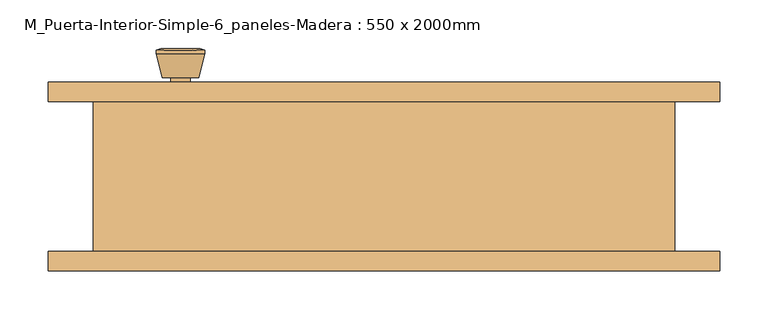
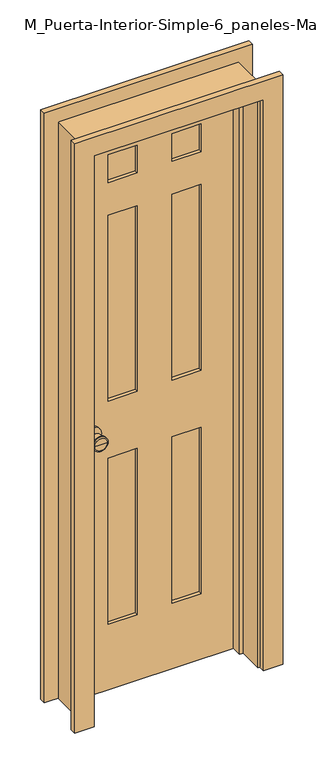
"""IFC4 building model written with IfcOpenShell, lengths in millimetres: door geometry, M_Puerta-Interior-Simple-6_paneles-Madera : 550 x 2000mm."""

import ifcopenshell
import ifcopenshell.guid

model = None  # the IFC model being written
_history = None  # IfcOwnerHistory: only IFC2X3 demands one
_inside = {}  # id of a spatial element -> (the spatial element, [elements in it])
_under = {}  # id of a project, library or spatial element -> (it, [spatial elements below it])
_declared = {}  # id of a project -> (the project, [libraries it declares])
_typed = {}  # id of a type object -> (the type object, [elements of that type])
_made_of = {}  # id of a material, layer set ... -> (it, [elements and type objects made of it])


def new_model(schema):
    """Start an empty IFC model of exactly this schema.

    Asked for "IFC4X3", IfcOpenShell would pick the latest addendum, in which some entities
    have other attributes; the version numbers below select the first issue.
    IFC2X3 requires an IfcOwnerHistory on every rooted entity: one is made here for all.
    """
    global model, _history
    if schema == "IFC4X3":
        model = ifcopenshell.file(schema_version=(4, 3, 0, 0))
    else:
        model = ifcopenshell.file(schema=schema)
    _inside.clear()
    _under.clear()
    _declared.clear()
    _typed.clear()
    _made_of.clear()
    _history = None
    if model.schema == "IFC2X3":
        org = make("IfcOrganization", Name="unknown")
        user = make(
            "IfcPersonAndOrganization",
            ThePerson=make("IfcPerson", FamilyName="unknown"),
            TheOrganization=org,
        )
        app = make(
            "IfcApplication",
            ApplicationDeveloper=org,
            Version="unknown",
            ApplicationFullName="unknown",
            ApplicationIdentifier="unknown",
        )
        _history = make(
            "IfcOwnerHistory",
            OwningUser=user,
            OwningApplication=app,
            ChangeAction="ADDED",
            CreationDate=0,
        )
    return model


def make(cls, **values):
    """One entity of the class cls with the attributes given. An attribute that is None is left unset."""
    return model.create_entity(
        cls, **{name: value for name, value in values.items() if value is not None}
    )


def rooted(cls, **values):
    """An entity with a GlobalId (a new one), such as an element, a storey or a relation."""
    return make(cls, GlobalId=ifcopenshell.guid.new(), OwnerHistory=_history, **values)


def si_unit(unit_type, name, prefix=None):
    """IfcSIUnit, for example si_unit("LENGTHUNIT", "METRE", prefix="MILLI")."""
    return make("IfcSIUnit", UnitType=unit_type, Prefix=prefix, Name=name)


def assignment(units):
    """IfcUnitAssignment: the units of a project."""
    return None if units is None else make("IfcUnitAssignment", Units=units)


def point(xyz):
    """IfcCartesianPoint."""
    return None if xyz is None else make("IfcCartesianPoint", Coordinates=xyz)


def direction(xyz):
    """IfcDirection."""
    return None if xyz is None else make("IfcDirection", DirectionRatios=xyz)


def frame(location, z_axis=None, x_axis=None):
    """IfcAxis2Placement3D, a coordinate frame: its origin and axes. An axis left out is left unset."""
    return make(
        "IfcAxis2Placement3D",
        Location=point(location),
        Axis=direction(z_axis),
        RefDirection=direction(x_axis),
    )


def frame_2d(location, x_axis=None):
    """IfcAxis2Placement2D, a coordinate frame in the plane: its origin and x axis."""
    return make(
        "IfcAxis2Placement2D", Location=point(location), RefDirection=direction(x_axis)
    )


def origin():
    """The frame at (0, 0, 0) with its axes left unset."""
    return frame((0.0, 0.0, 0.0))


def place(relative_to, where):
    """IfcLocalPlacement: puts the frame where relative to a parent placement (None: the world)."""
    return make(
        "IfcLocalPlacement", PlacementRelTo=relative_to, RelativePlacement=where
    )


def context(
    kind, dimensions, precision=None, world=None, true_north=None, identifier=None
):
    """IfcGeometricRepresentationContext, for example the 3D "Model" context."""
    return make(
        "IfcGeometricRepresentationContext",
        ContextIdentifier=identifier,
        ContextType=kind,
        CoordinateSpaceDimension=dimensions,
        Precision=precision,
        WorldCoordinateSystem=world,
        TrueNorth=true_north,
    )


def project(units=None, contexts=None):
    """IfcProject with its units and contexts."""
    return rooted(
        "IfcProject",
        Name="project",
        RepresentationContexts=contexts,
        UnitsInContext=assignment(units),
    )


def spatial(cls, under=None, at=None, **own):
    """A site, building, storey or space (cls), placed at a placement, below another one or the project."""
    s = rooted(cls, ObjectPlacement=at, **own)
    if under is not None:
        _under.setdefault(under.id(), (under, []))[1].append(s)
    return s


def polyline(points):
    """IfcPolyline through the points."""
    return make("IfcPolyline", Points=[point(p) for p in points])


def circle_curve(where, radius):
    """IfcCircle in the frame where."""
    return make("IfcCircle", Position=where, Radius=radius)


def trimmed(basis, trim1, trim2, sense, master):
    """IfcTrimmedCurve: the piece of a basis curve between two trims."""
    return make(
        "IfcTrimmedCurve",
        BasisCurve=basis,
        Trim1=trim1,
        Trim2=trim2,
        SenseAgreement=sense,
        MasterRepresentation=master,
    )


def segment(curve, same_sense, transition):
    """IfcCompositeCurveSegment."""
    return make(
        "IfcCompositeCurveSegment",
        Transition=transition,
        SameSense=same_sense,
        ParentCurve=curve,
    )


def composite_curve(segments, self_intersect=None):
    """IfcCompositeCurve: segments joined end to end."""
    return make("IfcCompositeCurve", Segments=segments, SelfIntersect=self_intersect)


def outline(outer, holes=None, kind="AREA"):
    """IfcArbitraryClosedProfileDef: a profile drawn as a closed curve; with holes, ...WithVoids."""
    if holes is None:
        return make("IfcArbitraryClosedProfileDef", ProfileType=kind, OuterCurve=outer)
    return make(
        "IfcArbitraryProfileDefWithVoids",
        ProfileType=kind,
        OuterCurve=outer,
        InnerCurves=holes,
    )


def extrude(swept, where, along, depth):
    """IfcExtrudedAreaSolid: the profile swept, set in the frame where, extruded along a direction by depth."""
    return make(
        "IfcExtrudedAreaSolid",
        SweptArea=swept,
        Position=where,
        ExtrudedDirection=direction(along),
        Depth=depth,
    )


def faces_of(points, faces, orient=None, outer=None):
    """IfcFace entities. A face is a list of loops; a loop is a list of indices into points, from 0.

    orient and outer hold one flag for each loop. By default every Orientation is true, the
    first loop of a face is its IfcFaceOuterBound and the others are IfcFaceBound.
    """
    made = []
    for i, loops in enumerate(faces):
        bounds = []
        for j, loop in enumerate(loops):
            is_outer = j == 0 if outer is None else outer[i][j]
            bounds.append(
                make(
                    "IfcFaceOuterBound" if is_outer else "IfcFaceBound",
                    Bound=make("IfcPolyLoop", Polygon=[points[k] for k in loop]),
                    Orientation=True if orient is None else orient[i][j],
                )
            )
        made.append(make("IfcFace", Bounds=bounds))
    return made


def faceted_brep(points, faces, orient=None, outer=None, voids=None):
    """IfcFacetedBrep: a solid bounded by flat faces; with voids (closed shells), ...WithVoids."""
    shared = [point(p) for p in points]
    hull = make("IfcClosedShell", CfsFaces=faces_of(shared, faces, orient, outer))
    if voids is None:
        return make("IfcFacetedBrep", Outer=hull)
    return make(
        "IfcFacetedBrepWithVoids",
        Outer=hull,
        Voids=[
            make(cls, CfsFaces=faces_of(shared, fs, o, b)) for cls, fs, o, b in voids
        ],
    )


def shape(context_of_items, identifier, shape_type, items):
    """IfcShapeRepresentation: the items that make up one representation, for example the "Body"."""
    return make(
        "IfcShapeRepresentation",
        ContextOfItems=context_of_items,
        RepresentationIdentifier=identifier,
        RepresentationType=shape_type,
        Items=items,
    )


def source(mapping_origin, context_of_items, identifier, shape_type, items):
    """IfcRepresentationMap: a shape defined once, which mapped items show again and again."""
    return make(
        "IfcRepresentationMap",
        MappingOrigin=mapping_origin,
        MappedRepresentation=shape(context_of_items, identifier, shape_type, items),
    )


def transform(
    local_origin,
    x_axis=None,
    y_axis=None,
    z_axis=None,
    scale=None,
    scale2=None,
    scale3=None,
    uniform=True,
):
    """IfcCartesianTransformationOperator3D, or its non-uniform kind. x_axis, y_axis, z_axis: its Axis1, 2, 3."""
    if uniform:
        return make(
            "IfcCartesianTransformationOperator3D",
            Axis1=direction(x_axis),
            Axis2=direction(y_axis),
            LocalOrigin=point(local_origin),
            Scale=scale,
            Axis3=direction(z_axis),
        )
    return make(
        "IfcCartesianTransformationOperator3DnonUniform",
        Axis1=direction(x_axis),
        Axis2=direction(y_axis),
        LocalOrigin=point(local_origin),
        Scale=scale,
        Axis3=direction(z_axis),
        Scale2=scale2,
        Scale3=scale3,
    )


def mapped(mapping_source, mapping_target):
    """IfcMappedItem: shows the shape of a source again, moved by a transform."""
    return make(
        "IfcMappedItem", MappingSource=mapping_source, MappingTarget=mapping_target
    )


def made_of(thing, what):
    """Note that an element or type object is made of a material, layer set ...; save() writes the relation."""
    if what is not None:
        _made_of.setdefault(what.id(), (what, []))[1].append(thing)
    return thing


def element(
    cls,
    number,
    at=None,
    inside=None,
    cuts=None,
    type_object=None,
    material=None,
    context=None,
    identifier="Body",
    shape_type=None,
    held_by="IfcProductDefinitionShape",
    body=None,
    shapes=None,
    **own,
):
    """One element of the class cls, such as IfcWall. Its Tag is "e" and its number.

    at: its placement. inside: the storey or other place that contains it. cuts: it is an
    opening in that element (IfcRelVoidsElement). A single representation is given by context,
    identifier, shape_type and body (its items); several are given by shapes. held_by: the class
    of the entity that holds the representations. save() writes the other relations.
    """
    e = rooted(cls, Tag="e%d" % number, ObjectPlacement=at, **own)
    if body is not None:
        shapes = [shape(context, identifier, shape_type, body)]
    if shapes is not None:
        e.Representation = make(held_by, Representations=shapes)
    if inside is not None:
        _inside.setdefault(inside.id(), (inside, []))[1].append(e)
    if cuts is not None:
        rooted(
            "IfcRelVoidsElement", RelatingBuildingElement=cuts, RelatedOpeningElement=e
        )
    if type_object is not None:
        _typed.setdefault(type_object.id(), (type_object, []))[1].append(e)
    return made_of(e, material)


def aggregate(whole, parts):
    """IfcRelAggregates: a whole, such as a stair, and the parts it consists of."""
    return rooted("IfcRelAggregates", RelatingObject=whole, RelatedObjects=parts)


def save(model, path):
    """Write the relations noted so far, then the file.

    IfcRelAggregates (storeys below a building ...), IfcRelContainedInSpatialStructure (elements
    in a storey), IfcRelDefinesByType, IfcRelAssociatesMaterial and IfcRelDeclares: one each for
    every whole, place, type object, material and project.
    """
    for whole, parts in _under.values():
        aggregate(whole, parts)
    for where, things in _inside.values():
        rooted(
            "IfcRelContainedInSpatialStructure",
            RelatedElements=things,
            RelatingStructure=where,
        )
    for kind, things in _typed.values():
        rooted("IfcRelDefinesByType", RelatedObjects=things, RelatingType=kind)
    for what, things in _made_of.values():
        rooted("IfcRelAssociatesMaterial", RelatedObjects=things, RelatingMaterial=what)
    for by, libraries in _declared.values():
        rooted("IfcRelDeclares", RelatingContext=by, RelatedDefinitions=libraries)
    model.write(path)


def plane_surface(at):
    """IfcPlane: the flat surface through the origin of the frame at, square to its z axis."""
    return make("IfcPlane", Position=at)


def cylinder_surface(at, radius):
    """IfcCylindricalSurface: all points at the distance radius from the z axis of the frame at."""
    return make("IfcCylindricalSurface", Position=at, Radius=radius)


def revolved_surface(curve, axis_point, axis_direction):
    """IfcSurfaceOfRevolution: the curve turned about the line through axis_point along axis_direction."""
    return make(
        "IfcSurfaceOfRevolution",
        SweptCurve=make("IfcArbitraryOpenProfileDef", ProfileType="CURVE", Curve=curve),
        AxisPosition=make("IfcAxis1Placement", Location=point(axis_point), Axis=direction(axis_direction)),
    )


def advanced_brep(points, edges, surfaces, faces):
    """IfcAdvancedBrep: a solid bounded by faces that lie on surfaces and meet in shared edges.

    An edge is (start, end): straight between two places in points (the first is 0);
    or (start, end, curve); or (start, end, curve, False) where it runs against its curve.
    A face is (place in surfaces, loops), or (place, loops, False) where it looks against
    its surface's normal. A loop lists edges by number (the first is 1), with a minus sign
    where the edge is run from its end to its start. The first loop is the outer one.
    """
    corners = [point(p) for p in points]
    vertices = [make("IfcVertexPoint", VertexGeometry=c) for c in corners]
    made = []
    for start, end, *more in edges:
        made.append(
            make(
                "IfcEdgeCurve",
                EdgeStart=vertices[start],
                EdgeEnd=vertices[end],
                EdgeGeometry=more[0] if more else make("IfcPolyline", Points=[corners[start], corners[end]]),
                SameSense=more[1] if len(more) > 1 else True,
            )
        )
    hull = []
    for where, loops, *sense in faces:
        bounds = []
        for j, loop in enumerate(loops):
            ring = [make("IfcOrientedEdge", EdgeElement=made[abs(k) - 1], Orientation=k > 0) for k in loop]
            bounds.append(
                make(
                    "IfcFaceOuterBound" if j == 0 else "IfcFaceBound",
                    Bound=make("IfcEdgeLoop", EdgeList=ring),
                    Orientation=True,
                )
            )
        hull.append(make("IfcAdvancedFace", Bounds=bounds, FaceSurface=surfaces[where], SameSense=sense[0] if sense else True))
    return make("IfcAdvancedBrep", Outer=make("IfcClosedShell", CfsFaces=hull))


def m_puerta_interior_simple_6_paneles_madera_550_x_2000mm_e46cda8c(model_context):
    return source(origin(), model_context, "Body", "SolidModel", [
        advanced_brep(
        [(-210.0, 33.325, 914.4), (-200.0, 33.325, 914.4), (-220.0, 33.325, 914.4), (-189.5241324, -15.675, 914.4), (-210.0, -15.675, 914.4), (-230.4758676, -15.675, 914.4), (-185.0, -13.8471319, 914.4), (-235.0, -13.8471319, 914.4), (-185.0, -10.3834537, 914.4), (-235.0, -10.3834537, 914.4), (-191.363764, 14.325, 914.4), (-228.636236, 14.325, 914.4), (-200.0, 14.325, 914.4), (-220.0, 14.325, 914.4)],
        [
            (0, 1),
            (1, 2, circle_curve(frame((-210.0, 33.325, 914.4), z_axis=(0.0, 1.0, 0.0), x_axis=(-1.0, 0.0, 0.0)), 10.0)),
            (2, 0),
            (2, 1, circle_curve(frame((-210.0, 33.325, 914.4), z_axis=(0.0, 1.0, 0.0), x_axis=(-1.0, 0.0, 0.0)), 10.0)),
            (3, 4),
            (4, 5),
            (5, 3, circle_curve(frame((-210.0, -15.675, 914.4), z_axis=(0.0, -1.0, 0.0), x_axis=(-1.0, 0.0, 0.0)), 20.4758676)),
            (3, 5, circle_curve(frame((-210.0, -15.675, 914.4), z_axis=(0.0, -1.0, 0.0), x_axis=(-1.0, 0.0, 0.0)), 20.4758676)),
            (6, 3),
            (5, 7),
            (7, 6, circle_curve(frame((-210.0, -13.8471319, 914.4), z_axis=(0.0, -1.0, 0.0), x_axis=(-1.0, 0.0, 0.0)), 25.0)),
            (6, 7, circle_curve(frame((-210.0, -13.8471319, 914.4), z_axis=(0.0, -1.0, 0.0), x_axis=(-1.0, 0.0, 0.0)), 25.0)),
            (8, 6),
            (7, 9),
            (9, 8, circle_curve(frame((-210.0, -10.3834537, 914.4), z_axis=(0.0, -1.0, 0.0), x_axis=(-1.0, 0.0, 0.0)), 25.0)),
            (8, 9, circle_curve(frame((-210.0, -10.3834537, 914.4), z_axis=(0.0, -1.0, 0.0), x_axis=(-1.0, 0.0, 0.0)), 25.0)),
            (10, 8),
            (9, 11),
            (11, 10, circle_curve(frame((-210.0, 14.325, 914.4), z_axis=(0.0, -1.0, 0.0), x_axis=(-1.0, 0.0, 0.0)), 18.636236)),
            (10, 11, circle_curve(frame((-210.0, 14.325, 914.4), z_axis=(0.0, -1.0, 0.0), x_axis=(-1.0, 0.0, 0.0)), 18.636236)),
            (12, 10),
            (11, 13),
            (13, 12, circle_curve(frame((-210.0, 14.325, 914.4), z_axis=(0.0, -1.0, 0.0), x_axis=(-1.0, 0.0, 0.0)), 10.0)),
            (12, 13, circle_curve(frame((-210.0, 14.325, 914.4), z_axis=(0.0, -1.0, 0.0), x_axis=(-1.0, 0.0, 0.0)), 10.0)),
            (1, 12),
            (13, 2),
        ],
        [
            plane_surface(frame((-210.0, 33.325, 914.4), z_axis=(0.0, 1.0, 0.0), x_axis=(-1.0, 0.0, 0.0))),
            plane_surface(frame((-210.0, -15.675, 914.4), z_axis=(0.0, -1.0, 0.0), x_axis=(-1.0, 0.0, 0.0))),
            revolved_surface(polyline([(-230.4758676, -15.675, 914.4), (-235.0, -13.8471319, 914.4)]), (-210.0, 33.325, 914.4), (0.0, 1.0, 0.0)),
            cylinder_surface(frame((-210.0, 33.325, 914.4), z_axis=(0.0, 1.0, 0.0), x_axis=(-1.0, 0.0, 0.0)), 25.0),
            revolved_surface(polyline([(-235.0, -10.3834537, 914.4), (-228.636236, 14.325, 914.4)]), (-210.0, 33.325, 914.4), (0.0, 1.0, 0.0)),
            plane_surface(frame((-210.0, 14.325, 914.4), z_axis=(0.0, 1.0, 0.0), x_axis=(-1.0, 0.0, 0.0))),
            cylinder_surface(frame((-210.0, 33.325, 914.4), z_axis=(0.0, 1.0, 0.0), x_axis=(-1.0, 0.0, 0.0)), 10.0),
        ],
        [
            (0, [[1, 2, 3]]),
            (0, [[-3, 4, -1]]),
            (1, [[5, 6, 7]]),
            (1, [[-6, -5, 8]]),
            (2, [[9, -7, 10, 11]]),
            (2, [[-10, -8, -9, 12]]),
            (3, [[13, -11, 14, 15]]),
            (3, [[-14, -12, -13, 16]]),
            (4, [[17, -15, 18, 19]]),
            (4, [[-18, -16, -17, 20]]),
            (5, [[21, -19, 22, 23]]),
            (5, [[-22, -20, -21, 24]]),
            (6, [[25, -23, 26, -2]]),
            (6, [[-26, -24, -25, -4]]),
        ],
    ),
        extrude(outline(composite_curve([segment(trimmed(circle_curve(frame_2d((914.4, -210.0)), 30.0), [point((914.4, -240.0))], [point((914.4, -180.0))], False, "CARTESIAN"), True, "CONTINUOUS"), segment(trimmed(circle_curve(frame_2d((914.4, -210.0)), 30.0), [point((914.4, -180.0))], [point((914.4, -240.0))], False, "CARTESIAN"), True, "CONTINUOUS")], self_intersect=False)), frame((0.0, 33.325, 0.0), z_axis=(0.0, 1.0, 0.0), x_axis=(0.0, 0.0, 1.0)), (0.0, 0.0, 1.0), 6.0),
        advanced_brep(
        [(-210.0, 80.325, 914.4), (-220.0, 80.325, 914.4), (-200.0, 80.325, 914.4), (-189.5241324, 129.325, 914.4), (-230.4758676, 129.325, 914.4), (-210.0, 129.325, 914.4), (-185.0, 127.4971319, 914.4), (-235.0, 127.4971319, 914.4), (-185.0, 124.0334537, 914.4), (-235.0, 124.0334537, 914.4), (-191.363764, 99.325, 914.4), (-228.636236, 99.325, 914.4), (-200.0, 99.325, 914.4), (-220.0, 99.325, 914.4)],
        [
            (0, 1),
            (1, 2, circle_curve(frame((-210.0, 80.325, 914.4), z_axis=(0.0, -1.0, 0.0), x_axis=(-1.0, 0.0, 0.0)), 10.0)),
            (2, 0),
            (2, 1, circle_curve(frame((-210.0, 80.325, 914.4), z_axis=(0.0, -1.0, 0.0), x_axis=(-1.0, 0.0, 0.0)), 10.0)),
            (3, 4, circle_curve(frame((-210.0, 129.325, 914.4), z_axis=(0.0, 1.0, 0.0), x_axis=(-1.0, 0.0, 0.0)), 20.4758676)),
            (4, 5),
            (5, 3),
            (4, 3, circle_curve(frame((-210.0, 129.325, 914.4), z_axis=(0.0, 1.0, 0.0), x_axis=(-1.0, 0.0, 0.0)), 20.4758676)),
            (6, 7, circle_curve(frame((-210.0, 127.4971319, 914.4), z_axis=(0.0, 1.0, 0.0), x_axis=(-1.0, 0.0, 0.0)), 25.0)),
            (7, 4),
            (3, 6),
            (7, 6, circle_curve(frame((-210.0, 127.4971319, 914.4), z_axis=(0.0, 1.0, 0.0), x_axis=(-1.0, 0.0, 0.0)), 25.0)),
            (8, 9, circle_curve(frame((-210.0, 124.0334537, 914.4), z_axis=(0.0, 1.0, 0.0), x_axis=(-1.0, 0.0, 0.0)), 25.0)),
            (9, 7),
            (6, 8),
            (9, 8, circle_curve(frame((-210.0, 124.0334537, 914.4), z_axis=(0.0, 1.0, 0.0), x_axis=(-1.0, 0.0, 0.0)), 25.0)),
            (10, 11, circle_curve(frame((-210.0, 99.325, 914.4), z_axis=(0.0, 1.0, 0.0), x_axis=(-1.0, 0.0, 0.0)), 18.636236)),
            (11, 9),
            (8, 10),
            (11, 10, circle_curve(frame((-210.0, 99.325, 914.4), z_axis=(0.0, 1.0, 0.0), x_axis=(-1.0, 0.0, 0.0)), 18.636236)),
            (12, 13, circle_curve(frame((-210.0, 99.325, 914.4), z_axis=(0.0, 1.0, 0.0), x_axis=(-1.0, 0.0, 0.0)), 10.0)),
            (13, 11),
            (10, 12),
            (13, 12, circle_curve(frame((-210.0, 99.325, 914.4), z_axis=(0.0, 1.0, 0.0), x_axis=(-1.0, 0.0, 0.0)), 10.0)),
            (1, 13),
            (12, 2),
        ],
        [
            plane_surface(frame((-210.0, 80.325, 914.4), z_axis=(0.0, -1.0, 0.0), x_axis=(-1.0, 0.0, 0.0))),
            plane_surface(frame((-210.0, 129.325, 914.4), z_axis=(0.0, 1.0, 0.0), x_axis=(-1.0, 0.0, 0.0))),
            revolved_surface(polyline([(-230.4758676, 129.325, 914.4), (-235.0, 127.4971319, 914.4)]), (-210.0, 80.325, 914.4), (0.0, -1.0, 0.0)),
            cylinder_surface(frame((-210.0, 80.325, 914.4), z_axis=(0.0, -1.0, 0.0), x_axis=(-1.0, 0.0, 0.0)), 25.0),
            revolved_surface(polyline([(-235.0, 124.0334537, 914.4), (-228.636236, 99.325, 914.4)]), (-210.0, 80.325, 914.4), (0.0, -1.0, 0.0)),
            plane_surface(frame((-210.0, 99.325, 914.4), z_axis=(0.0, -1.0, 0.0), x_axis=(-1.0, 0.0, 0.0))),
            cylinder_surface(frame((-210.0, 80.325, 914.4), z_axis=(0.0, -1.0, 0.0), x_axis=(-1.0, 0.0, 0.0)), 10.0),
        ],
        [
            (0, [[1, 2, 3]]),
            (0, [[-3, 4, -1]]),
            (1, [[5, 6, 7]]),
            (1, [[8, -7, -6]]),
            (2, [[9, 10, -5, 11]]),
            (2, [[12, -11, -8, -10]]),
            (3, [[13, 14, -9, 15]]),
            (3, [[16, -15, -12, -14]]),
            (4, [[17, 18, -13, 19]]),
            (4, [[20, -19, -16, -18]]),
            (5, [[21, 22, -17, 23]]),
            (5, [[24, -23, -20, -22]]),
            (6, [[-2, 25, -21, 26]]),
            (6, [[-4, -26, -24, -25]]),
        ],
    ),
        extrude(outline(composite_curve([segment(trimmed(circle_curve(frame_2d((914.4, -210.0)), 30.0), [point((914.4, -240.0))], [point((914.4, -180.0))], False, "CARTESIAN"), True, "CONTINUOUS"), segment(trimmed(circle_curve(frame_2d((914.4, -210.0)), 30.0), [point((914.4, -180.0))], [point((914.4, -240.0))], False, "CARTESIAN"), True, "CONTINUOUS")], self_intersect=False)), frame((0.0, 74.325, 0.0), z_axis=(0.0, 1.0, 0.0), x_axis=(0.0, 0.0, 1.0)), (0.0, 0.0, 1.0), 6.0),
        faceted_brep([(300.0, 74.325, 0.0), (300.0, -80.675, 0.0), (275.0, -80.675, 0.0), (275.0, 4.4, 0.0), (262.3, 4.4, 0.0), (262.3, 39.325, 0.0), (275.0, 39.325, 0.0), (275.0, 74.325, 0.0), (300.0, 74.325, 2025.0), (300.0, -80.675, 2025.0), (-300.0, -80.675, 2025.0), (-300.0, -80.675, 0.0), (-275.0, -80.675, 0.0), (-275.0, -80.675, 2000.0), (275.0, -80.675, 2000.0), (275.0, 4.4, 2000.0), (-275.0, 4.4, 2000.0), (-275.0, 4.4, 0.0), (-262.3, 4.4, 0.0), (-262.3, 4.4, 1987.3), (262.3, 4.4, 1987.3), (262.3, 39.325, 1987.3), (-262.3, 39.325, 1987.3), (-262.3, 39.325, 0.0), (-275.0, 39.325, 0.0), (-275.0, 39.325, 2000.0), (275.0, 39.325, 2000.0), (275.0, 74.325, 2000.0), (-275.0, 74.325, 2000.0), (-275.0, 74.325, 0.0), (-300.0, 74.325, 0.0), (-300.0, 74.325, 2025.0)], [[[0, 1, 2, 3, 4, 5, 6, 7]], [[1, 0, 8, 9]], [[2, 1, 9, 10, 11, 12, 13, 14]], [[3, 2, 14, 15]], [[4, 3, 15, 16, 17, 18, 19, 20]], [[5, 4, 20, 21]], [[6, 5, 21, 22, 23, 24, 25, 26]], [[7, 6, 26, 27]], [[0, 7, 27, 28, 29, 30, 31, 8]], [[9, 8, 31, 10]], [[15, 14, 13, 16]], [[21, 20, 19, 22]], [[27, 26, 25, 28]], [[30, 29, 24, 23, 18, 17, 12, 11]], [[10, 31, 30, 11]], [[16, 13, 12, 17]], [[22, 19, 18, 23]], [[28, 25, 24, 29]]]),
        extrude(outline(polyline([(2000.0, -275.0), (0.0, -275.0), (0.0, 275.0), (2000.0, 275.0), (2000.0, -275.0)]), holes=[polyline([(1880.0, 57.5), (1880.0, 155.0), (1782.5, 155.0), (1782.5, 57.5), (1880.0, 57.5)]), polyline([(1667.5, 155.0), (1014.4, 155.0), (1014.4, 57.5), (1667.5, 57.5), (1667.5, 155.0)]), polyline([(1014.4, -57.5), (1014.4, -155.0), (1667.5, -155.0), (1667.5, -57.5), (1014.4, -57.5)]), polyline([(1782.5, -155.0), (1880.0, -155.0), (1880.0, -57.5), (1782.5, -57.5), (1782.5, -155.0)]), polyline([(814.4, 57.5), (814.4, 155.0), (230.0, 155.0), (230.0, 57.5), (814.4, 57.5)]), polyline([(230.0, -57.5), (230.0, -155.0), (814.4, -155.0), (814.4, -57.5), (230.0, -57.5)])]), frame((0.0, 39.325, 0.0), z_axis=(0.0, 1.0, 0.0), x_axis=(0.0, 0.0, 1.0)), (0.0, 0.0, 1.0), 35.0),
        extrude(outline(polyline([(155.0, 50.9916667), (57.5, 50.9916667), (57.5, 62.6583333), (155.0, 62.6583333), (155.0, 50.9916667)])), frame((0.0, 0.0, 1782.5), z_axis=(0.0, 0.0, 1.0), x_axis=(1.0, 0.0, 0.0)), (0.0, 0.0, 1.0), 97.5),
        extrude(outline(polyline([(155.0, 50.9916667), (57.5, 50.9916667), (57.5, 62.6583333), (155.0, 62.6583333), (155.0, 50.9916667)])), frame((0.0, 0.0, 1014.4), z_axis=(0.0, 0.0, 1.0), x_axis=(1.0, 0.0, 0.0)), (0.0, 0.0, 1.0), 653.1),
        extrude(outline(polyline([(-57.5, 50.9916667), (-155.0, 50.9916667), (-155.0, 62.6583333), (-57.5, 62.6583333), (-57.5, 50.9916667)])), frame((0.0, 0.0, 1014.4), z_axis=(0.0, 0.0, 1.0), x_axis=(1.0, 0.0, 0.0)), (0.0, 0.0, 1.0), 653.1),
        extrude(outline(polyline([(-57.5, 50.9916667), (-155.0, 50.9916667), (-155.0, 62.6583333), (-57.5, 62.6583333), (-57.5, 50.9916667)])), frame((0.0, 0.0, 1782.5), z_axis=(0.0, 0.0, 1.0), x_axis=(1.0, 0.0, 0.0)), (0.0, 0.0, 1.0), 97.5),
        extrude(outline(polyline([(155.0, 50.9916667), (57.5, 50.9916667), (57.5, 62.6583333), (155.0, 62.6583333), (155.0, 50.9916667)])), frame((0.0, 0.0, 230.0), z_axis=(0.0, 0.0, 1.0), x_axis=(1.0, 0.0, 0.0)), (0.0, 0.0, 1.0), 584.4),
        extrude(outline(polyline([(-57.5, 50.9916667), (-155.0, 50.9916667), (-155.0, 62.6583333), (-57.5, 62.6583333), (-57.5, 50.9916667)])), frame((0.0, 0.0, 230.0), z_axis=(0.0, 0.0, 1.0), x_axis=(1.0, 0.0, 0.0)), (0.0, 0.0, 1.0), 584.4),
        extrude(outline(polyline([(0.0, 281.35), (0.0, 346.35), (2071.35, 346.35), (2071.35, -346.35), (0.0, -346.35), (0.0, -281.35), (2006.35, -281.35), (2006.35, 281.35), (0.0, 281.35)])), frame((0.0, 74.325, 0.0), z_axis=(0.0, 1.0, 0.0), x_axis=(0.0, 0.0, 1.0)), (0.0, 0.0, 1.0), 20.0),
        extrude(outline(polyline([(0.0, 281.35), (0.0, 346.35), (2071.35, 346.35), (2071.35, -346.35), (0.0, -346.35), (0.0, -281.35), (2006.35, -281.35), (2006.35, 281.35), (0.0, 281.35)])), frame((0.0, -100.675, 0.0), z_axis=(0.0, 1.0, 0.0), x_axis=(0.0, 0.0, 1.0)), (0.0, 0.0, 1.0), 20.0),
    ])


if __name__ == "__main__":
    model = new_model("IFC4")
    model_context = context("Model", 3, world=origin())
    ifc_project = project(units=[si_unit("LENGTHUNIT", "METRE", prefix="MILLI")], contexts=[model_context])
    site = spatial("IfcSite", under=ifc_project)
    building = spatial("IfcBuilding", under=site)
    placement = place(None, origin())
    m_puerta_interior_simple_6_paneles_madera_550_x_2000mm_shape = m_puerta_interior_simple_6_paneles_madera_550_x_2000mm_e46cda8c(model_context)
    element("IfcDoor", 1, ObjectType="M_Puerta-Interior-Simple-6_paneles-Madera : 550 x 2000mm", at=placement, inside=building, context=model_context, shape_type="MappedRepresentation", body=[
        mapped(m_puerta_interior_simple_6_paneles_madera_550_x_2000mm_shape, transform((0.0, 0.0, 0.0), x_axis=(1.0, 0.0, 0.0), y_axis=(0.0, 1.0, 0.0), z_axis=(0.0, 0.0, 1.0))),
    ])
    save(model, "model.ifc")
